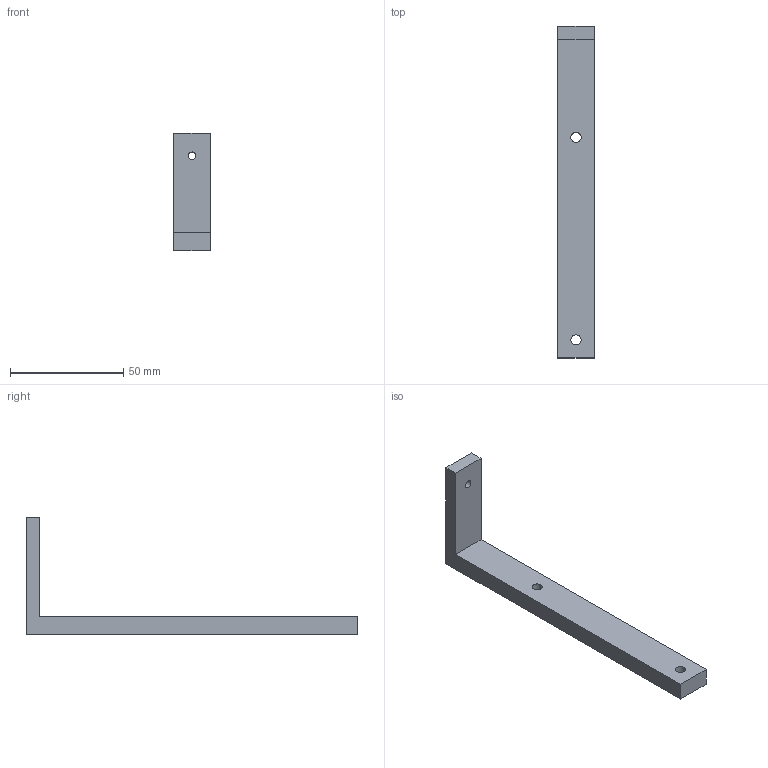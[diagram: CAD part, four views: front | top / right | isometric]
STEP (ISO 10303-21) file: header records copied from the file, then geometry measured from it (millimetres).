
FILE_DESCRIPTION(('Open CASCADE Model'),'2;1');
FILE_NAME('Open CASCADE Shape Model','2026-10-26T17:58:52',('Author'),( 'Open CASCADE'),'Open CASCADE STEP processor 7.9','Open CASCADE 7.9' ,'Unknown');
FILE_SCHEMA(('AUTOMOTIVE_DESIGN { 1 0 10303 214 1 1 1 1 }'));
Length unit declared in the file: millimetre
Products named in the file (1): Open CASCADE STEP translator 7.9 13
Bounding box: 16 x 146.8 x 52 mm (x, y, z)
Volume: 22705.5 mm3; surface area: 9446.9 mm2
Topology: 1 solids, 1 shells, 11 faces, 27 edges, 18 vertices
Faces by surface type: plane 8, cylinder 3
Full cylindrical faces by diameter (mm): 3.4 x1, 4.5 x2
Entity records: 700 total; most frequent: CARTESIAN_POINT 111, DIRECTION 111, LINE 69, VECTOR 69, ORIENTED_EDGE 54, PCURVE 54, DEFINITIONAL_REPRESENTATION 54, EDGE_CURVE 27
